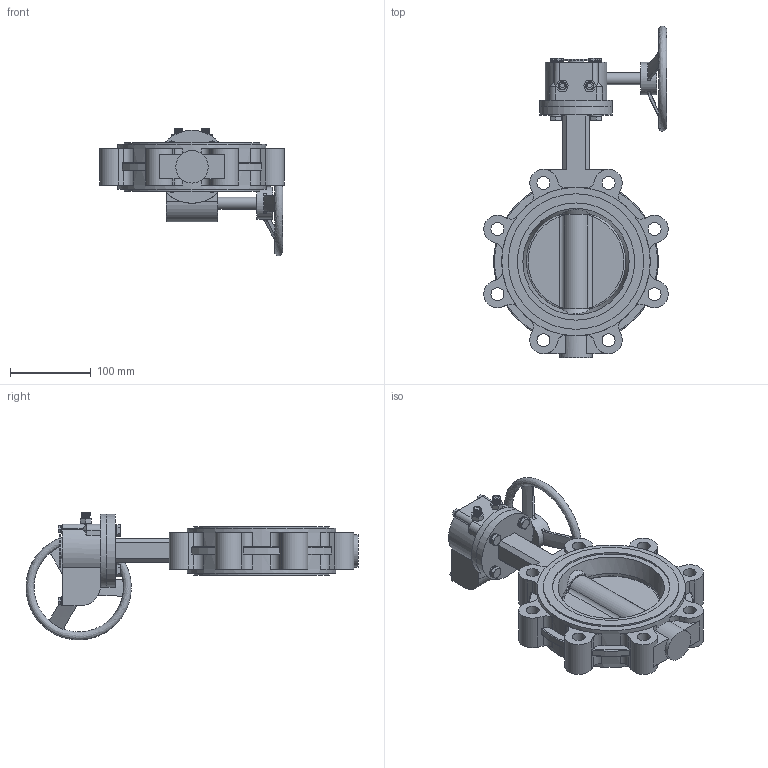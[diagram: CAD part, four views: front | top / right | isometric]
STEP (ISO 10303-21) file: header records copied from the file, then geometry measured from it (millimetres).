
FILE_DESCRIPTION (( 'STEP AP214' ), '1' );
FILE_NAME ('1恦謫 等標評概Fig3240-125-16.STEP', '2026-03-20T06:35:16', ( '' ), ( '' ), 'SwSTEP 2.0', 'SolidWorks 2024', '' );
FILE_SCHEMA (( 'AUTOMOTIVE_DESIGN' ));
Length unit declared in the file: millimetre
Products named in the file (1): 1涡轮 单夹蝶阀Fig3240-125-16
Bounding box: 227.98 x 409.98 x 157.68 mm (x, y, z)
Surface area: 242209.5 mm2 (no closed solid volume)
Topology: 0 solids, 1 shells, 656 faces, 1732 edges, 1132 vertices
Faces by surface type: plane 334, bspline 153, cylinder 127, cone 42
Full cylindrical faces by diameter (mm): 6 x4, 8 x4, 8.68 x4, 10 x10, 13.68 x4, 15 x1, 16 x8, 20 x1, 40 x3, 50 x1, 90 x1, 90.02 x1, 144.8 x2, 167.3 x2, 183.3 x2
Entity records: 46444 total; most frequent: CARTESIAN_POINT 24555, ORIENTED_EDGE 3284, DIRECTION 2505, EDGE_CURVE 1653, VERTEX_POINT 1106, AXIS2_PLACEMENT_3D 844, VECTOR 817, LINE 817
